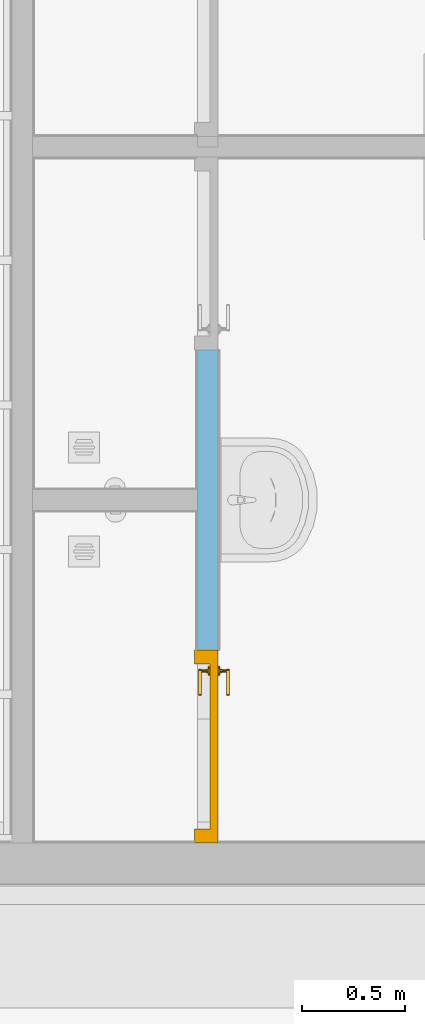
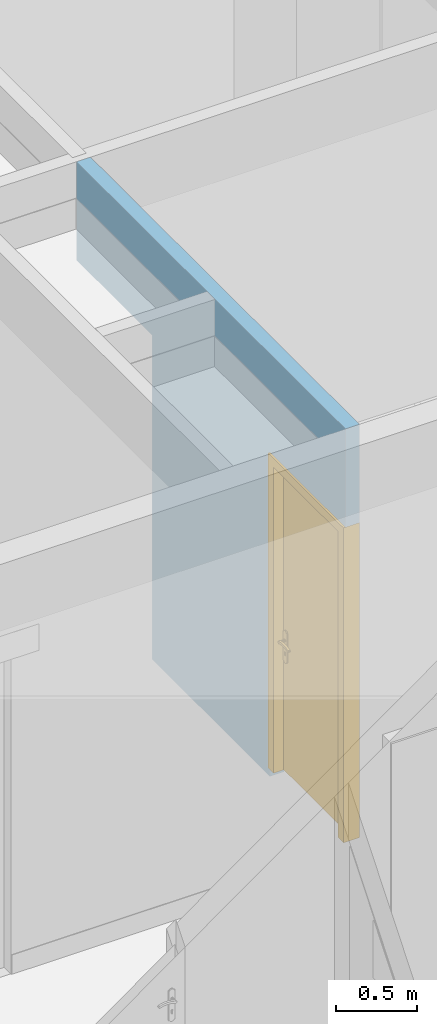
# One storey, part 9 of 788: 1 door, 2 openings, plus 1 element that does not belong to this part.
"""IFC2X3 building model written with IfcOpenShell, lengths in millimetres."""

from ifc_helpers import new_model, entity, si_unit, converted_unit, derived_unit, money_unit, direction, frame, origin_with_axes, place, context, subcontext, project, spatial, faceted_brep, source, transform, mapped, material, type_object, type_shapes, element, fill, save


model = new_model("IFC2X3")

# Units and contexts
model_context = context("Model", 3, precision=0.01, world=origin_with_axes(), true_north=direction((0.0, 1.0)))
plan_context = context("Plan", 3, precision=0.01, world=origin_with_axes(), true_north=direction((0.0, 1.0)))
body_context = subcontext(model_context, "Body", "Model", "MODEL_VIEW")
ifc_project = project(units=[si_unit("LENGTHUNIT", "METRE", prefix="MILLI"), si_unit("AREAUNIT", "SQUARE_METRE"), si_unit("VOLUMEUNIT", "CUBIC_METRE"), converted_unit("PLANEANGLEUNIT", "DEGREE", entity("IfcPlaneAngleMeasure", 0.0174532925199), si_unit("PLANEANGLEUNIT", "RADIAN"), dimensions=[0, 0, 0, 0, 0, 0, 0]), money_unit("EUR"), converted_unit("TIMEUNIT", "Year", entity("IfcTimeMeasure", 31556926.0), si_unit("TIMEUNIT", "SECOND"), dimensions=[0, 0, 1, 0, 0, 0, 0]), si_unit("MASSUNIT", "GRAM", prefix="KILO"), si_unit("THERMODYNAMICTEMPERATUREUNIT", "DEGREE_CELSIUS"), si_unit("LUMINOUSINTENSITYUNIT", "LUMEN"), si_unit("ENERGYUNIT", "JOULE", prefix="MEGA"), derived_unit("THERMALCONDUCTANCEUNIT", [(si_unit("POWERUNIT", "WATT"), 1), (si_unit("LENGTHUNIT", "METRE"), -1), (si_unit("THERMODYNAMICTEMPERATUREUNIT", "KELVIN"), -1)]), derived_unit("SPECIFICHEATCAPACITYUNIT", [(si_unit("ENERGYUNIT", "JOULE"), 1), (si_unit("MASSUNIT", "GRAM", prefix="KILO"), -1), (si_unit("THERMODYNAMICTEMPERATUREUNIT", "KELVIN"), -1)]), derived_unit("MASSDENSITYUNIT", [(si_unit("MASSUNIT", "GRAM", prefix="KILO"), 1), (si_unit("VOLUMEUNIT", "CUBIC_METRE"), -1)])], contexts=[model_context, plan_context])

# Site, building, storey
site_placement = place(None, origin_with_axes())
site = spatial("IfcSite", under=ifc_project, at=site_placement, Name="Site", CompositionType="ELEMENT")
building_placement = place(site_placement, origin_with_axes())
building = spatial("IfcBuilding", under=site, at=building_placement, Name="Naam gebouw", CompositionType="ELEMENT")
storey_placement = place(building_placement, origin_with_axes())
storey = spatial("IfcBuildingStorey", under=building, at=storey_placement, Name="Begane grond", CompositionType="ELEMENT", Elevation=0.0)

# Wall, openings, door
ifc_material = material(Name="Steen - Betonblok C")
wall_type = type_object("IfcWallType", Name="22 Binnenwand NC_betonblok 100mm 100", PredefinedType="ELEMENTEDWALL")
wall_placement = place(storey_placement, frame((68656.0127546, -47328.9563034, 830.0), z_axis=(0.0, 0.0, 1.0), x_axis=(0.0, -1.0, 0.0)))
wall = element("IfcWall", 1, at=wall_placement, inside=storey, type_object=wall_type, material=ifc_material, Name="Binnenwand", context=body_context, shape_type="Brep", body=[
    faceted_brep([(2441.04552762, 100.0, 2447.0), (2441.04552762, 100.0, 70.0), (2441.04552762, 100.0, 0.0), (984.000000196, 100.0, 0.0), (984.000000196, 100.0, 70.0), (984.000000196, 100.0, 2447.0), (50.043772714, 100.0, 2447.0), (50.043772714, 100.0, 3190.0), (3375.04377271, 100.0, 3190.0), (3375.04552762, 100.0, 2447.0), (2441.04552762, 0.0, 2447.0), (2441.04552762, 0.0, 70.0), (2441.04552762, 0.0, 0.0), (984.000000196, 0.0, 0.0), (984.000000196, 0.0, 70.0), (984.000000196, 0.0, 2447.0), (50.043772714, 0.0, 2447.0), (50.043772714, 0.0, 3190.0), (3375.04377271, 0.0, 3190.0), (3375.04552762, 0.0, 2447.0)], [[[0, 1, 2, 3, 4, 5, 6, 7, 8, 9]], [[1, 0, 10, 11]], [[1, 11, 12, 2]], [[12, 13, 3, 2]], [[4, 3, 13, 14]], [[4, 14, 15, 5]], [[6, 5, 15, 16]], [[16, 17, 7, 6]], [[8, 7, 17, 18]], [[19, 9, 8, 18]], [[0, 9, 19, 10]], [[10, 19, 18, 17, 16, 15, 14, 13, 12, 11]]]),
])
opening_1_placement = place(wall_placement, frame((517.000000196, 0.0, 70.0), z_axis=(0.0, 0.0, 1.0), x_axis=(1.0, 0.0, 0.0)))
element("IfcOpeningElement", 2, at=opening_1_placement, cuts=wall, Name="b1.11-sp", context=body_context, shape_type="Brep", body=[
    faceted_brep([(-467.0, 200.0, 2377.0), (-467.0, 200.0, 0.0), (-467.0, -100.0, 0.0), (-467.0, -100.0, 2377.0), (467.0, 200.0, 2377.0), (467.0, 200.0, 0.0), (467.0, -100.0, 0.0), (467.0, -100.0, 2377.0)], [[[0, 1, 2, 3]], [[0, 4, 5, 1]], [[1, 5, 6, 2]], [[3, 2, 6, 7]], [[4, 0, 3, 7]], [[5, 4, 7, 6]]]),
])
opening_2_placement = place(wall_placement, frame((2908.04552762, 0.0, 70.0), z_axis=(0.0, 0.0, 1.0), x_axis=(1.0, 0.0, 0.0)))
opening_2 = element("IfcOpeningElement", 3, at=opening_2_placement, cuts=wall, Name="b1.11", context=body_context, shape_type="Brep", body=[
    faceted_brep([(467.0, -100.0, 2377.0), (467.0, -100.0, 0.0), (467.0, 200.0, 0.0), (467.0, 200.0, 2377.0), (-467.0, -100.0, 2377.0), (-467.0, -100.0, 0.0), (-467.0, 200.0, 0.0), (-467.0, 200.0, 2377.0)], [[[0, 1, 2, 3]], [[0, 4, 5, 1]], [[1, 5, 6, 2]], [[3, 2, 6, 7]], [[4, 0, 3, 7]], [[5, 4, 7, 6]]]),
])
door_style = type_object("IfcDoorStyle", Name="D1 25", ConstructionType="NOTDEFINED", OperationType="SINGLE_SWING_RIGHT", ParameterTakesPrecedence=False, Sizeable=False)
shared_shape = source(origin_with_axes(), body_context, "Body", "Brep", [
    faceted_brep([(-400.0, -40.0, 0.0), (-400.0, -40.0, 2310.0), (-400.0, -114.0, 2310.0), (-400.0, -114.0, 0.0), (-417.0, -40.0, 2310.0), (-417.0, -40.0, 0.0), (-417.0, 0.0, 2310.0), (-467.0, 0.0, 2310.0), (-467.0, -114.0, 2310.0), (-467.0, -114.0, 0.0), (-467.0, 0.0, 0.0), (-417.0, 0.0, 0.0)], [[[0, 1, 2, 3]], [[4, 1, 0, 5]], [[4, 6, 7, 8, 2, 1]], [[3, 2, 8, 9]], [[5, 0, 3, 9, 10, 11]], [[6, 4, 5, 11]], [[6, 11, 10, 7]], [[10, 9, 8, 7]]]),
    faceted_brep([(417.0, -40.0, 2310.0), (400.0, -40.0, 2310.0), (400.0, -114.0, 2310.0), (467.0, -114.0, 2310.0), (467.0, 0.0, 2310.0), (417.0, 0.0, 2310.0), (417.0, -40.0, 0.0), (400.0, -40.0, 0.0), (400.0, -114.0, 0.0), (467.0, -114.0, 0.0), (467.0, 0.0, 0.0), (417.0, 0.0, 0.0)], [[[0, 1, 2, 3, 4, 5]], [[1, 0, 6, 7]], [[1, 7, 8, 2]], [[3, 2, 8, 9]], [[4, 3, 9, 10]], [[11, 5, 4, 10]], [[0, 5, 11, 6]], [[6, 11, 10, 9, 8, 7]]]),
    faceted_brep([(-417.0, 0.0, 2327.0), (-417.0, 0.0, 2310.0), (-467.0, 0.0, 2310.0), (-467.0, 0.0, 2377.0), (467.0, 0.0, 2377.0), (467.0, 0.0, 2310.0), (417.0, 0.0, 2310.0), (417.0, 0.0, 2327.0), (-417.0, -40.0, 2327.0), (-417.0, -40.0, 2310.0), (-400.0, -40.0, 2310.0), (-400.0, -114.0, 2310.0), (-467.0, -114.0, 2310.0), (-467.0, -114.0, 2377.0), (467.0, -114.0, 2377.0), (467.0, -114.0, 2310.0), (417.0, -40.0, 2310.0), (400.0, -114.0, 2310.0), (400.0, -40.0, 2310.0), (417.0, -40.0, 2327.0)], [[[0, 1, 2, 3, 4, 5, 6, 7]], [[1, 0, 8, 9]], [[9, 10, 11, 12, 2, 1]], [[2, 12, 13, 3]], [[3, 13, 14, 4]], [[4, 14, 15, 5]], [[16, 6, 5, 15, 17, 18]], [[7, 6, 16, 19]], [[0, 7, 19, 8]], [[16, 18, 10, 9, 8, 19]], [[10, 18, 17, 11]], [[17, 15, 14, 13, 12, 11]]]),
    faceted_brep([(-371.702282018, -80.0, 1006.47213595), (-367.0, -80.0, 1008.0), (-367.0, -60.0, 1008.0), (-371.702282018, -60.0, 1006.47213595), (-374.60845213, -80.0, 1002.47213595), (-374.60845213, -80.0, 997.527864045), (-371.702282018, -80.0, 993.527864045), (-367.0, -80.0, 992.0), (-362.297717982, -80.0, 993.527864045), (-359.39154787, -80.0, 997.527864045), (-359.39154787, -80.0, 1002.47213595), (-362.297717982, -80.0, 1006.47213595), (-362.297717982, -60.0, 1006.47213595), (-367.0, -58.0, 1010.0), (-372.877852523, -58.0, 1008.09016994), (-374.60845213, -60.0, 1002.47213595), (-374.60845213, -60.0, 997.527864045), (-371.702282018, -60.0, 993.527864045), (-367.0, -60.0, 992.0), (-362.297717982, -60.0, 993.527864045), (-359.39154787, -60.0, 997.527864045), (-359.39154787, -60.0, 1002.47213595), (-361.122147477, -58.0, 1008.09016994), (-367.0, -50.0, 1010.0), (-372.877852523, -50.0, 1008.09016994), (-376.510565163, -58.0, 1003.09016994), (-376.510565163, -58.0, 996.909830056), (-372.877852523, -58.0, 991.909830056), (-367.0, -58.0, 990.0), (-361.122147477, -58.0, 991.909830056), (-357.489434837, -58.0, 996.909830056), (-357.489434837, -58.0, 1003.09016994), (-361.122147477, -50.0, 1008.09016994), (-357.489434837, -50.0, 1003.09016994), (-357.489434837, -50.0, 996.909830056), (-361.122147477, -50.0, 991.909830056), (-367.0, -50.0, 990.0), (-372.877852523, -50.0, 991.909830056), (-376.510565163, -50.0, 996.909830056), (-376.510565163, -50.0, 1003.09016994)], [[[0, 1, 2, 3]], [[1, 0, 4, 5, 6, 7, 8, 9, 10, 11]], [[1, 11, 12, 2]], [[3, 2, 13, 14]], [[4, 0, 3, 15]], [[5, 4, 15, 16]], [[6, 5, 16, 17]], [[7, 6, 17, 18]], [[8, 7, 18, 19]], [[9, 8, 19, 20]], [[10, 9, 20, 21]], [[11, 10, 21, 12]], [[2, 12, 22, 13]], [[14, 13, 23, 24]], [[15, 3, 14, 25]], [[16, 15, 25, 26]], [[17, 16, 26, 27]], [[18, 17, 27, 28]], [[19, 18, 28, 29]], [[20, 19, 29, 30]], [[21, 20, 30, 31]], [[12, 21, 31, 22]], [[13, 22, 32, 23]], [[23, 32, 33, 34, 35, 36, 37, 38, 39, 24]], [[25, 14, 24, 39]], [[26, 25, 39, 38]], [[27, 26, 38, 37]], [[28, 27, 37, 36]], [[29, 28, 36, 35]], [[30, 29, 35, 34]], [[31, 30, 34, 33]], [[22, 31, 33, 32]]]),
    faceted_brep([(-354.811616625, -50.0, 1067.59695641), (-362.556444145, -50.0, 1071.95567195), (-371.443555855, -50.0, 1071.95567195), (-379.188383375, -50.0, 1067.59695641), (-383.8, -50.0, 1060.0), (-389.5, -50.0, 1060.0), (-389.5, -50.0, 840.0), (-383.8, -50.0, 840.0), (-379.188383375, -50.0, 832.403043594), (-371.443555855, -50.0, 828.044328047), (-362.556444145, -50.0, 828.044328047), (-354.811616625, -50.0, 832.403043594), (-350.2, -50.0, 840.0), (-344.5, -50.0, 840.0), (-344.5, -50.0, 1060.0), (-350.2, -50.0, 1060.0), (-367.0, -50.0, 917.425445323), (-361.624817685, -50.0, 915.143815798), (-359.532169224, -50.0, 909.692280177), (-362.0, -50.0, 904.4), (-362.0, -50.0, 887.5), (-363.464466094, -50.0, 883.964466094), (-367.0, -50.0, 882.5), (-370.535533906, -50.0, 883.964466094), (-372.0, -50.0, 887.5), (-372.0, -50.0, 904.4), (-374.467830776, -50.0, 909.692280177), (-372.375182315, -50.0, 915.143815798), (-354.811616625, -40.0, 1067.59695641), (-362.556444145, -40.0, 1071.95567195), (-371.443555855, -40.0, 1071.95567195), (-379.188383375, -40.0, 1067.59695641), (-383.8, -40.0, 1060.0), (-389.5, -40.0, 1060.0), (-389.5, -40.0, 840.0), (-383.8, -40.0, 840.0), (-379.188383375, -40.0, 832.403043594), (-371.443555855, -40.0, 828.044328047), (-362.556444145, -40.0, 828.044328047), (-354.811616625, -40.0, 832.403043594), (-350.2, -40.0, 840.0), (-344.5, -40.0, 840.0), (-344.5, -40.0, 1060.0), (-350.2, -40.0, 1060.0), (-367.0, -40.0, 917.425445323), (-361.624817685, -40.0, 915.143815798), (-359.532169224, -40.0, 909.692280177), (-362.0, -40.0, 904.4), (-362.0, -40.0, 887.5), (-363.464466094, -40.0, 883.964466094), (-367.0, -40.0, 882.5), (-370.535533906, -40.0, 883.964466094), (-372.0, -40.0, 887.5), (-372.0, -40.0, 904.4), (-374.467830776, -40.0, 909.692280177), (-372.375182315, -40.0, 915.143815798)], [[[0, 1, 2, 3, 4, 5, 6, 7, 8, 9, 10, 11, 12, 13, 14, 15], [16, 17, 18, 19, 20, 21, 22, 23, 24, 25, 26, 27]], [[1, 0, 28, 29]], [[2, 1, 29, 30]], [[3, 2, 30, 31]], [[4, 3, 31, 32]], [[5, 4, 32, 33]], [[6, 5, 33, 34]], [[7, 6, 34, 35]], [[8, 7, 35, 36]], [[9, 8, 36, 37]], [[10, 9, 37, 38]], [[11, 10, 38, 39]], [[12, 11, 39, 40]], [[13, 12, 40, 41]], [[14, 13, 41, 42]], [[15, 14, 42, 43]], [[0, 15, 43, 28]], [[17, 16, 44, 45]], [[18, 17, 45, 46]], [[19, 18, 46, 47]], [[19, 47, 48, 20]], [[20, 48, 49, 21]], [[21, 49, 50, 22]], [[22, 50, 51, 23]], [[23, 51, 52, 24]], [[53, 25, 24, 52]], [[26, 25, 53, 54]], [[27, 26, 54, 55]], [[16, 27, 55, 44]], [[40, 39, 38, 37, 36, 35, 34, 33, 32, 31, 30, 29, 28, 43, 42, 41], [54, 53, 52, 51, 50, 49, 48, 47, 46, 45, 44, 55]]]),
    faceted_brep([(-252.747, -80.0, 1007.158), (-252.747, -95.0, 1007.158), (-252.745508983, -95.0, 1007.19388416), (-252.745508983, -80.0, 1007.19388416), (-279.774630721, -80.0, 1014.32652034), (-279.774630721, -95.0, 1014.32652034), (-307.602743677, -95.0, 1017.06086405), (-335.508740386, -95.0, 1015.29002982), (-362.768, -95.0, 1009.06), (-369.170575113, -95.0, 1009.76125134), (-374.672633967, -95.0, 1006.41280843), (-376.991512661, -95.0, 1000.40385485), (-375.165167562, -95.0, 994.227352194), (-369.951302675, -95.0, 990.445773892), (-363.513017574, -95.0, 990.628000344), (-358.521392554, -95.0, 994.698430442), (-358.542, -95.0, 994.666), (-333.253286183, -95.0, 1000.19878945), (-307.410818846, -95.0, 1001.71460194), (-281.648684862, -95.0, 999.176244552), (-256.599, -95.0, 992.646), (-251.055815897, -95.0, 993.568490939), (-247.69427449, -95.0, 998.071591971), (-248.385844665, -95.0, 1003.64829442), (-248.385844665, -80.0, 1003.64829442), (-247.69427449, -80.0, 998.071591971), (-251.055815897, -80.0, 993.568490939), (-256.599, -80.0, 992.646), (-281.648684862, -80.0, 999.176244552), (-307.410818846, -80.0, 1001.71460194), (-333.253286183, -80.0, 1000.19878945), (-358.542, -80.0, 994.666), (-358.521392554, -80.0, 994.698430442), (-363.513017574, -80.0, 990.628000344), (-369.951302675, -80.0, 990.445773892), (-375.165167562, -80.0, 994.227352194), (-376.991512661, -80.0, 1000.40385485), (-374.672633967, -80.0, 1006.41280843), (-369.170575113, -80.0, 1009.76125134), (-362.768, -80.0, 1009.06), (-335.508740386, -80.0, 1015.29002982), (-307.602743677, -80.0, 1017.06086405)], [[[0, 1, 2, 3]], [[4, 5, 1, 0]], [[1, 5, 6, 7, 8, 9, 10, 11, 12, 13, 14, 15, 16, 17, 18, 19, 20, 21, 22, 23, 2]], [[3, 2, 23, 24]], [[0, 3, 24, 25, 26, 27, 28, 29, 30, 31, 32, 33, 34, 35, 36, 37, 38, 39, 40, 41, 4]], [[41, 6, 5, 4]], [[40, 7, 6, 41]], [[39, 8, 7, 40]], [[38, 9, 8, 39]], [[37, 10, 9, 38]], [[36, 11, 10, 37]], [[35, 12, 11, 36]], [[34, 13, 12, 35]], [[33, 14, 13, 34]], [[32, 15, 14, 33]], [[31, 16, 15, 32]], [[30, 17, 16, 31]], [[29, 18, 17, 30]], [[28, 19, 18, 29]], [[27, 20, 19, 28]], [[26, 21, 20, 27]], [[25, 22, 21, 26]], [[24, 23, 22, 25]]]),
    faceted_brep([(-371.702282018, 40.0, 1006.47213595), (-371.702282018, 20.0, 1006.47213595), (-367.0, 20.0, 1008.0), (-367.0, 40.0, 1008.0), (-374.60845213, 40.0, 1002.47213595), (-374.60845213, 20.0, 1002.47213595), (-372.877852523, 18.0, 1008.09016994), (-367.0, 18.0, 1010.0), (-362.297717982, 20.0, 1006.47213595), (-362.297717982, 40.0, 1006.47213595), (-359.39154787, 40.0, 1002.47213595), (-359.39154787, 40.0, 997.527864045), (-362.297717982, 40.0, 993.527864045), (-367.0, 40.0, 992.0), (-371.702282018, 40.0, 993.527864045), (-374.60845213, 40.0, 997.527864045), (-374.60845213, 20.0, 997.527864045), (-376.510565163, 18.0, 1003.09016994), (-372.877852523, 10.0, 1008.09016994), (-367.0, 10.0, 1010.0), (-361.122147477, 18.0, 1008.09016994), (-359.39154787, 20.0, 1002.47213595), (-359.39154787, 20.0, 997.527864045), (-362.297717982, 20.0, 993.527864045), (-367.0, 20.0, 992.0), (-371.702282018, 20.0, 993.527864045), (-376.510565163, 18.0, 996.909830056), (-376.510565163, 10.0, 1003.09016994), (-376.510565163, 10.0, 996.909830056), (-372.877852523, 10.0, 991.909830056), (-367.0, 10.0, 990.0), (-361.122147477, 10.0, 991.909830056), (-357.489434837, 10.0, 996.909830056), (-357.489434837, 10.0, 1003.09016994), (-361.122147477, 10.0, 1008.09016994), (-357.489434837, 18.0, 1003.09016994), (-357.489434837, 18.0, 996.909830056), (-361.122147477, 18.0, 991.909830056), (-367.0, 18.0, 990.0), (-372.877852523, 18.0, 991.909830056)], [[[0, 1, 2, 3]], [[4, 5, 1, 0]], [[1, 6, 7, 2]], [[3, 2, 8, 9]], [[3, 9, 10, 11, 12, 13, 14, 15, 4, 0]], [[15, 16, 5, 4]], [[5, 17, 6, 1]], [[6, 18, 19, 7]], [[2, 7, 20, 8]], [[9, 8, 21, 10]], [[10, 21, 22, 11]], [[11, 22, 23, 12]], [[12, 23, 24, 13]], [[13, 24, 25, 14]], [[14, 25, 16, 15]], [[16, 26, 17, 5]], [[17, 27, 18, 6]], [[19, 18, 27, 28, 29, 30, 31, 32, 33, 34]], [[7, 19, 34, 20]], [[8, 20, 35, 21]], [[21, 35, 36, 22]], [[22, 36, 37, 23]], [[23, 37, 38, 24]], [[24, 38, 39, 25]], [[25, 39, 26, 16]], [[26, 28, 27, 17]], [[39, 29, 28, 26]], [[38, 30, 29, 39]], [[37, 31, 30, 38]], [[36, 32, 31, 37]], [[35, 33, 32, 36]], [[20, 34, 33, 35]]]),
    faceted_brep([(-354.811616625, 0.0, 1067.59695641), (-362.556444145, 0.0, 1071.95567195), (-371.443555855, 0.0, 1071.95567195), (-379.188383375, 0.0, 1067.59695641), (-383.8, 0.0, 1060.0), (-389.5, 0.0, 1060.0), (-389.5, 0.0, 840.0), (-383.8, 0.0, 840.0), (-379.188383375, 0.0, 832.403043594), (-371.443555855, 0.0, 828.044328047), (-362.556444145, 0.0, 828.044328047), (-354.811616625, 0.0, 832.403043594), (-350.2, 0.0, 840.0), (-344.5, 0.0, 840.0), (-344.5, 0.0, 1060.0), (-350.2, 0.0, 1060.0), (-367.0, 0.0, 917.425445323), (-361.624817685, 0.0, 915.143815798), (-359.532169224, 0.0, 909.692280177), (-362.0, 0.0, 904.4), (-362.0, 0.0, 887.5), (-363.464466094, 0.0, 883.964466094), (-367.0, 0.0, 882.5), (-370.535533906, 0.0, 883.964466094), (-372.0, 0.0, 887.5), (-372.0, 0.0, 904.4), (-374.467830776, 0.0, 909.692280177), (-372.375182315, 0.0, 915.143815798), (-362.556444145, 10.0, 1071.95567195), (-354.811616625, 10.0, 1067.59695641), (-371.443555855, 10.0, 1071.95567195), (-379.188383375, 10.0, 1067.59695641), (-383.8, 10.0, 1060.0), (-389.5, 10.0, 1060.0), (-389.5, 10.0, 840.0), (-383.8, 10.0, 840.0), (-379.188383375, 10.0, 832.403043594), (-371.443555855, 10.0, 828.044328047), (-362.556444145, 10.0, 828.044328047), (-354.811616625, 10.0, 832.403043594), (-350.2, 10.0, 840.0), (-344.5, 10.0, 840.0), (-344.5, 10.0, 1060.0), (-350.2, 10.0, 1060.0), (-367.0, 10.0, 917.425445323), (-361.624817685, 10.0, 915.143815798), (-359.532169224, 10.0, 909.692280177), (-362.0, 10.0, 904.4), (-362.0, 10.0, 887.5), (-363.464466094, 10.0, 883.964466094), (-367.0, 10.0, 882.5), (-370.535533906, 10.0, 883.964466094), (-372.0, 10.0, 887.5), (-372.0, 10.0, 904.4), (-374.467830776, 10.0, 909.692280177), (-372.375182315, 10.0, 915.143815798)], [[[0, 1, 2, 3, 4, 5, 6, 7, 8, 9, 10, 11, 12, 13, 14, 15], [16, 17, 18, 19, 20, 21, 22, 23, 24, 25, 26, 27]], [[28, 1, 0, 29]], [[30, 2, 1, 28]], [[31, 3, 2, 30]], [[32, 4, 3, 31]], [[33, 5, 4, 32]], [[34, 6, 5, 33]], [[35, 7, 6, 34]], [[36, 8, 7, 35]], [[37, 9, 8, 36]], [[38, 10, 9, 37]], [[39, 11, 10, 38]], [[40, 12, 11, 39]], [[41, 13, 12, 40]], [[42, 14, 13, 41]], [[43, 15, 14, 42]], [[29, 0, 15, 43]], [[17, 16, 44, 45]], [[18, 17, 45, 46]], [[19, 18, 46, 47]], [[19, 47, 48, 20]], [[20, 48, 49, 21]], [[21, 49, 50, 22]], [[22, 50, 51, 23]], [[23, 51, 52, 24]], [[53, 25, 24, 52]], [[26, 25, 53, 54]], [[27, 26, 54, 55]], [[16, 27, 55, 44]], [[40, 39, 38, 37, 36, 35, 34, 33, 32, 31, 30, 28, 29, 43, 42, 41], [54, 53, 52, 51, 50, 49, 48, 47, 46, 45, 44, 55]]]),
    faceted_brep([(-252.747, 40.0, 1007.158), (-252.745508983, 40.0, 1007.19388416), (-252.745508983, 55.0, 1007.19388416), (-252.747, 55.0, 1007.158), (-279.774630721, 40.0, 1014.32652034), (-307.602743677, 40.0, 1017.06086405), (-335.508740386, 40.0, 1015.29002982), (-362.768, 40.0, 1009.06), (-369.170575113, 40.0, 1009.76125134), (-374.672633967, 40.0, 1006.41280843), (-376.991512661, 40.0, 1000.40385485), (-375.165167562, 40.0, 994.227352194), (-369.951302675, 40.0, 990.445773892), (-363.513017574, 40.0, 990.628000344), (-358.521392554, 40.0, 994.698430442), (-358.542, 40.0, 994.666), (-333.253286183, 40.0, 1000.19878945), (-307.410818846, 40.0, 1001.71460194), (-281.648684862, 40.0, 999.176244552), (-256.599, 40.0, 992.646), (-251.055815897, 40.0, 993.568490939), (-247.69427449, 40.0, 998.071591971), (-248.385844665, 40.0, 1003.64829442), (-248.385844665, 55.0, 1003.64829442), (-247.69427449, 55.0, 998.071591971), (-251.055815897, 55.0, 993.568490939), (-256.599, 55.0, 992.646), (-281.648684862, 55.0, 999.176244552), (-307.410818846, 55.0, 1001.71460194), (-333.253286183, 55.0, 1000.19878945), (-358.542, 55.0, 994.666), (-358.521392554, 55.0, 994.698430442), (-363.513017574, 55.0, 990.628000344), (-369.951302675, 55.0, 990.445773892), (-375.165167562, 55.0, 994.227352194), (-376.991512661, 55.0, 1000.40385485), (-374.672633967, 55.0, 1006.41280843), (-369.170575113, 55.0, 1009.76125134), (-362.768, 55.0, 1009.06), (-335.508740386, 55.0, 1015.29002982), (-307.602743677, 55.0, 1017.06086405), (-279.774630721, 55.0, 1014.32652034)], [[[0, 1, 2, 3]], [[0, 4, 5, 6, 7, 8, 9, 10, 11, 12, 13, 14, 15, 16, 17, 18, 19, 20, 21, 22, 1]], [[1, 22, 23, 2]], [[3, 2, 23, 24, 25, 26, 27, 28, 29, 30, 31, 32, 33, 34, 35, 36, 37, 38, 39, 40, 41]], [[4, 0, 3, 41]], [[5, 4, 41, 40]], [[6, 5, 40, 39]], [[7, 6, 39, 38]], [[8, 7, 38, 37]], [[9, 8, 37, 36]], [[10, 9, 36, 35]], [[11, 10, 35, 34]], [[12, 11, 34, 33]], [[13, 12, 33, 32]], [[14, 13, 32, 31]], [[15, 14, 31, 30]], [[16, 15, 30, 29]], [[17, 16, 29, 28]], [[18, 17, 28, 27]], [[19, 18, 27, 26]], [[20, 19, 26, 25]], [[21, 20, 25, 24]], [[22, 21, 24, 23]]]),
    faceted_brep([(417.0, 0.0, 0.0), (417.0, -40.0, 0.0), (-417.0, -40.0, 0.0), (-417.0, 0.0, 0.0), (417.0, 0.0, 2327.0), (417.0, -40.0, 2327.0), (-417.0, -40.0, 2327.0), (-417.0, 0.0, 2327.0)], [[[0, 1, 2, 3]], [[4, 5, 1, 0]], [[1, 5, 6, 2]], [[3, 2, 6, 7]], [[0, 3, 7, 4]], [[7, 6, 5, 4]]]),
])
type_shapes(door_style, [shared_shape])
door_placement = place(opening_2_placement, frame((-467.0, 0.0, 0.0), z_axis=(0.0, 0.0, 1.0), x_axis=(1.0, 0.0, 0.0)))
door = element("IfcDoor", 4, at=door_placement, inside=storey, type_object=door_style, Name="b1.11", ObjectType="DOOR", OverallHeight=2377.0, OverallWidth=934.0, context=body_context, shape_type="MappedRepresentation", body=[
    mapped(shared_shape, transform((467.0, 100.0, 0.0))),
])
fill(opening_2, door)

save(model, "model.ifc")
